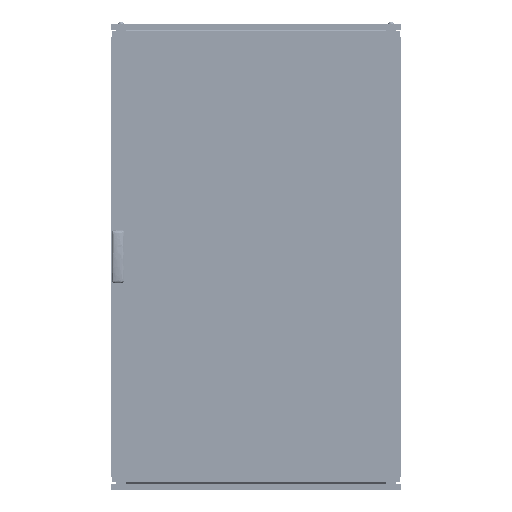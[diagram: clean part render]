
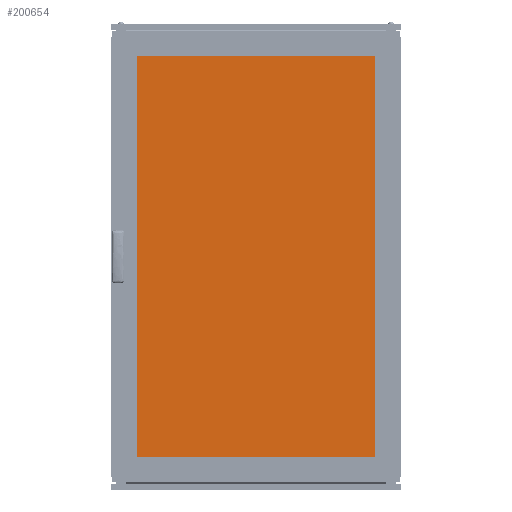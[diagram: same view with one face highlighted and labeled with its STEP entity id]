
A CAD part, top view. The second image highlights one B-rep face of the part: STEP entity #200654.
In plain terms, the highlighted planar face has unit normal (0, 0, 1).
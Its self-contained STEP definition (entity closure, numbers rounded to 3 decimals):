
#1865 = DIRECTION ( 'NONE',  ( 1., 0., 0. ) ) ;
#14216 = AXIS2_PLACEMENT_3D ( 'NONE', #18038, #119810, #120928 ) ;
#18038 = CARTESIAN_POINT ( 'NONE',  ( 0., 0., 5. ) ) ;
#20408 = CARTESIAN_POINT ( 'NONE',  ( -430., -710., 5. ) ) ;
#21812 = VERTEX_POINT ( 'NONE', #167596 ) ;
#22591 = CARTESIAN_POINT ( 'NONE',  ( -430., 710., 5. ) ) ;
#25045 = EDGE_CURVE ( 'NONE', #95436, #91439, #148787, .T. ) ;
#39608 = DIRECTION ( 'NONE',  ( -1., 0., 0. ) ) ;
#53461 = PLANE ( 'NONE',  #14216 ) ;
#55132 = CARTESIAN_POINT ( 'NONE',  ( -430., 710., 5. ) ) ;
#62649 = EDGE_CURVE ( 'NONE', #91439, #180155, #170123, .T. ) ;
#70781 = VECTOR ( 'NONE', #175168, 1000. ) ;
#84292 = EDGE_CURVE ( 'NONE', #180155, #21812, #107661, .T. ) ;
#89234 = CARTESIAN_POINT ( 'NONE',  ( -430., -710., 5. ) ) ;
#91439 = VERTEX_POINT ( 'NONE', #20408 ) ;
#95436 = VERTEX_POINT ( 'NONE', #22591 ) ;
#102105 = FACE_OUTER_BOUND ( 'NONE', #109374, .T. ) ;
#102712 = CARTESIAN_POINT ( 'NONE',  ( 430., -710., 5. ) ) ;
#107661 = LINE ( 'NONE', #190701, #70781 ) ;
#109374 = EDGE_LOOP ( 'NONE', ( #180677, #215281, #208856, #130605 ) ) ;
#111595 = EDGE_CURVE ( 'NONE', #21812, #95436, #122606, .T. ) ;
#119810 = DIRECTION ( 'NONE',  ( 0., 0., -1. ) ) ;
#120928 = DIRECTION ( 'NONE',  ( -1., 0., 0. ) ) ;
#122606 = LINE ( 'NONE', #55132, #206190 ) ;
#130605 = ORIENTED_EDGE ( 'NONE', *, *, #62649, .T. ) ;
#148787 = LINE ( 'NONE', #185340, #164828 ) ;
#154710 = VECTOR ( 'NONE', #1865, 1000. ) ;
#164828 = VECTOR ( 'NONE', #186435, 1000. ) ;
#167596 = CARTESIAN_POINT ( 'NONE',  ( 430., 710., 5. ) ) ;
#170123 = LINE ( 'NONE', #89234, #154710 ) ;
#175168 = DIRECTION ( 'NONE',  ( 0., 1., 0. ) ) ;
#180155 = VERTEX_POINT ( 'NONE', #102712 ) ;
#180677 = ORIENTED_EDGE ( 'NONE', *, *, #84292, .T. ) ;
#185340 = CARTESIAN_POINT ( 'NONE',  ( -430., -710., 5. ) ) ;
#186435 = DIRECTION ( 'NONE',  ( 0., -1., 0. ) ) ;
#190701 = CARTESIAN_POINT ( 'NONE',  ( 430., -710., 5. ) ) ;
#200654 = ADVANCED_FACE ( 'NONE', ( #102105 ), #53461, .F. ) ;
#206190 = VECTOR ( 'NONE', #39608, 1000. ) ;
#208856 = ORIENTED_EDGE ( 'NONE', *, *, #25045, .T. ) ;
#215281 = ORIENTED_EDGE ( 'NONE', *, *, #111595, .T. ) ;
